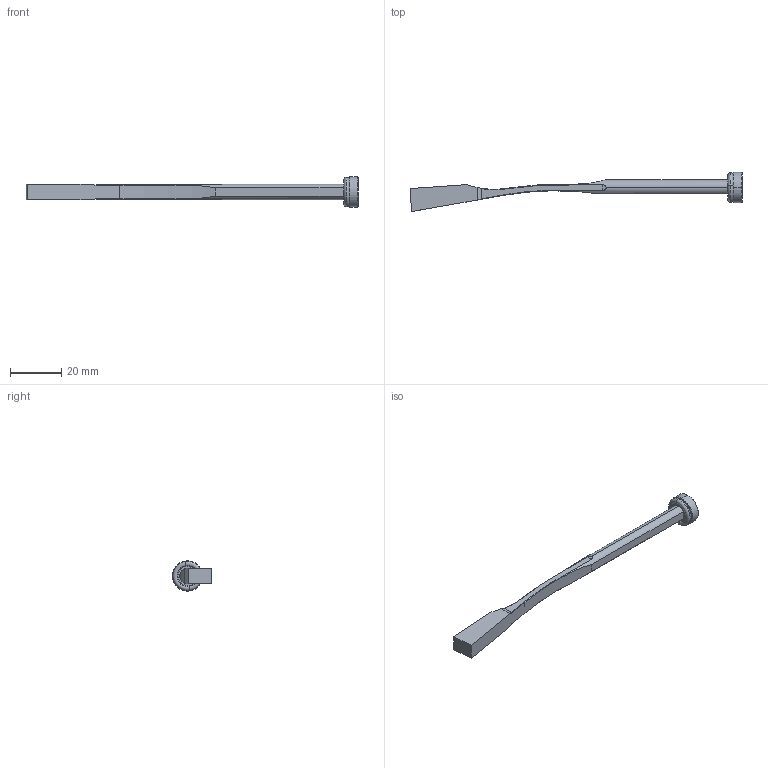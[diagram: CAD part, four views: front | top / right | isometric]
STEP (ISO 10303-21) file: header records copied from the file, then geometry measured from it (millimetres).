
FILE_DESCRIPTION (( 'STEP AP214' ), '1' );
FILE_NAME ('PW060622.STEP', '2020-02-10T08:29:19', ( '' ), ( '' ), 'SwSTEP 2.0', 'SolidWorks 2018', '' );
FILE_SCHEMA (( 'AUTOMOTIVE_DESIGN' ));
Length unit declared in the file: millimetre
Products named in the file (5): 3JT7.5X2X11.5; PW060622; 9FP1205M4; 9PW060622; 1DIN7991416_DIN 7991 - M4 x 16 --- 16C
Assembly tree (4 placements, depth 2):
  PW060622
    9PW060622
    9FP1205M4
    1DIN7991416_DIN 7991 - M4 x 16 --- 16C
    3JT7.5X2X11.5
Bounding box: 129.5 x 15.28 x 11.8 mm (x, y, z)
Volume: 3669.3 mm3; surface area: 3841.2 mm2
Topology: 4 solids, 4 shells, 89 faces, 202 edges, 118 vertices
Faces by surface type: plane 28, cylinder 23, cone 16, torus 14, bspline 8
Entity records: 2864 total; most frequent: CARTESIAN_POINT 651, DIRECTION 412, ORIENTED_EDGE 396, EDGE_CURVE 198, AXIS2_PLACEMENT_3D 165, VERTEX_POINT 118, EDGE_LOOP 94, FACE_OUTER_BOUND 89
